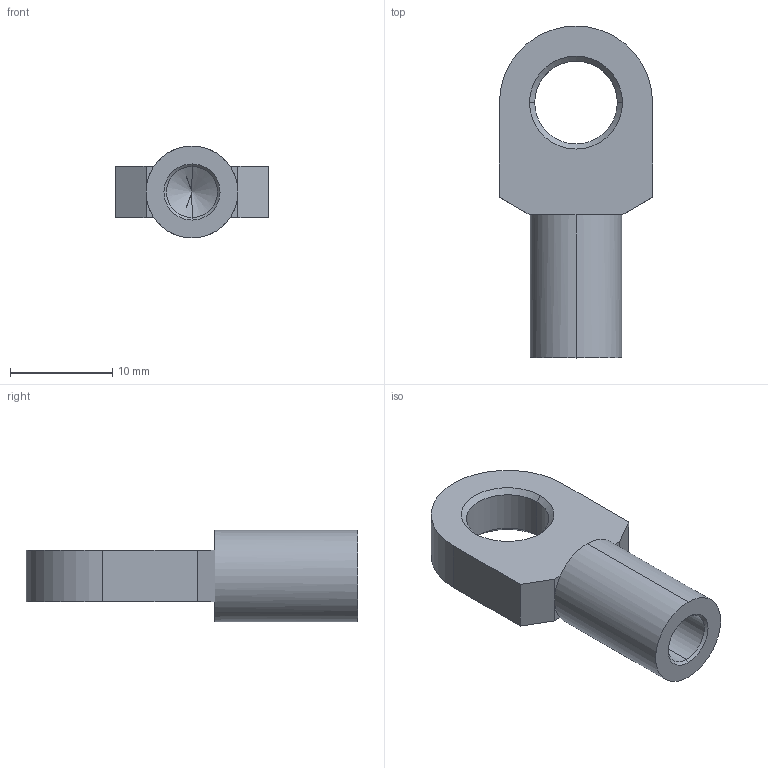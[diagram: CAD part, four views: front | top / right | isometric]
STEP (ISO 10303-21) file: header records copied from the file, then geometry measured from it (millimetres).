
FILE_DESCRIPTION (( 'STEP AP214' ), '1' );
FILE_NAME ('18.06E2STL25.STEP', '2017-11-15T09:04:22', ( '' ), ( '' ), 'SwSTEP 2.0', 'SolidWorks 2016', '' );
FILE_SCHEMA (( 'AUTOMOTIVE_DESIGN' ));
Length unit declared in the file: millimetre
Products named in the file (1): 18.06E2STL25
Bounding box: 15 x 32.5 x 9 mm (x, y, z)
Volume: 1607.5 mm3; surface area: 1434.9 mm2
Topology: 1 solids, 1 shells, 28 faces, 64 edges, 37 vertices
Faces by surface type: plane 13, cone 8, cylinder 7
Entity records: 806 total; most frequent: DIRECTION 146, CARTESIAN_POINT 128, ORIENTED_EDGE 124, EDGE_CURVE 62, AXIS2_PLACEMENT_3D 55, VERTEX_POINT 37, LINE 36, VECTOR 36
